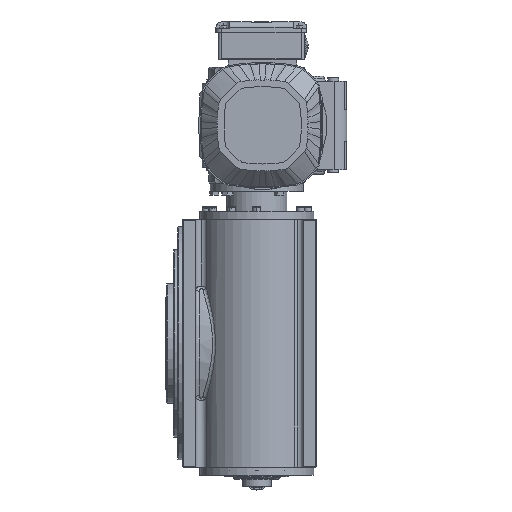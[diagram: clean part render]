
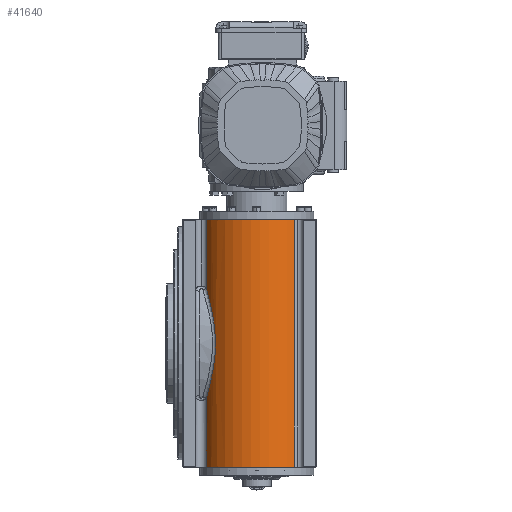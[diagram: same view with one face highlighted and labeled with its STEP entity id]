
A CAD part, left-side view. The second image highlights one B-rep face of the part: STEP entity #41640.
In plain terms, the highlighted cylindrical face has radius 71 mm (diameter 142 mm), a partial arc.
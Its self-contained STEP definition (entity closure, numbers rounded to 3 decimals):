
#196 = CARTESIAN_POINT ( 'NONE',  ( -141.327, 127.831, 29.758 ) ) ;
#270 = ORIENTED_EDGE ( 'NONE', *, *, #23834, .T. ) ;
#868 = ORIENTED_EDGE ( 'NONE', *, *, #51740, .F. ) ;
#2362 = CARTESIAN_POINT ( 'NONE',  ( -141.192, 127.924, -30.015 ) ) ;
#2782 = CARTESIAN_POINT ( 'NONE',  ( -143.713, 125.653, 10.36 ) ) ;
#3444 = VERTEX_POINT ( 'NONE', #14603 ) ;
#4498 = CIRCLE ( 'NONE', #80134, 71. ) ;
#7082 = CARTESIAN_POINT ( 'NONE',  ( -128.109, 136.808, 68.859 ) ) ;
#7103 = CARTESIAN_POINT ( 'NONE',  ( -95., 74., 154. ) ) ;
#7285 = CARTESIAN_POINT ( 'NONE',  ( -142.345, 126.918, 23.884 ) ) ;
#8637 = CARTESIAN_POINT ( 'NONE',  ( -142.826, 126.476, -19.641 ) ) ;
#8804 = CIRCLE ( 'NONE', #70164, 71. ) ;
#8835 = CARTESIAN_POINT ( 'NONE',  ( -148.721, 27.577, 154. ) ) ;
#9061 = CARTESIAN_POINT ( 'NONE',  ( -143.351, 125.993, 14.878 ) ) ;
#9504 = CARTESIAN_POINT ( 'NONE',  ( -143.2, 126.132, 16.387 ) ) ;
#11302 = LINE ( 'NONE', #79717, #85713 ) ;
#13398 = DIRECTION ( 'NONE',  ( 0., 0., 1. ) ) ;
#13591 = B_SPLINE_CURVE_WITH_KNOTS ( 'NONE', 3,
 ( #81099, #13983, #41342, #60546, #34600, #47142, #68495, #40455, #61446, #196, #7285, #9504, #9061, #36814, #2782, #56075, #22931, #83314, #76608, #8637, #41756, #50273, #49841, #2362, #63191, #48966, #64061, #42652, #63619, #69818 ),
 .UNSPECIFIED., .F., .F.,
 ( 4, 2, 2, 2, 2, 2, 2, 2, 2, 2, 2, 2, 2, 2, 4 ),
 ( 0., 0.018, 0.023, 0.027, 0.036, 0.055, 0.059, 0.064, 0.073, 0.091, 0.095, 0.1, 0.109, 0.127, 0.145 ),
 .UNSPECIFIED. ) ;
#13983 = CARTESIAN_POINT ( 'NONE',  ( -130.725, 135.429, 63.555 ) ) ;
#14603 = CARTESIAN_POINT ( 'NONE',  ( -148.721, 27.577, -154. ) ) ;
#15972 = EDGE_CURVE ( 'NONE', #67952, #27628, #75093, .T. ) ;
#16411 = CARTESIAN_POINT ( 'NONE',  ( -128.109, 136.808, -68.859 ) ) ;
#17279 = AXIS2_PLACEMENT_3D ( 'NONE', #71453, #51479, #30359 ) ;
#18074 = ORIENTED_EDGE ( 'NONE', *, *, #83754, .T. ) ;
#22069 = ORIENTED_EDGE ( 'NONE', *, *, #15972, .F. ) ;
#22931 = CARTESIAN_POINT ( 'NONE',  ( -144.049, 125.334, 2.839 ) ) ;
#23473 = VERTEX_POINT ( 'NONE', #16411 ) ;
#23834 = EDGE_CURVE ( 'NONE', #86995, #3444, #8804, .T. ) ;
#27235 = DIRECTION ( 'NONE',  ( 0., 0., 1. ) ) ;
#27628 = VERTEX_POINT ( 'NONE', #61720 ) ;
#30359 = DIRECTION ( 'NONE',  ( 1., 0., 0. ) ) ;
#33222 = VECTOR ( 'NONE', #54569, 1000. ) ;
#34600 = CARTESIAN_POINT ( 'NONE',  ( -135.977, 131.984, 49.755 ) ) ;
#35631 = ORIENTED_EDGE ( 'NONE', *, *, #45904, .T. ) ;
#36814 = CARTESIAN_POINT ( 'NONE',  ( -143.607, 125.753, 11.865 ) ) ;
#40243 = CARTESIAN_POINT ( 'NONE',  ( -128.109, 136.808, -154. ) ) ;
#40455 = CARTESIAN_POINT ( 'NONE',  ( -138.57, 130.069, 41.275 ) ) ;
#41163 = CARTESIAN_POINT ( 'NONE',  ( -128.109, 136.808, -500000. ) ) ;
#41342 = CARTESIAN_POINT ( 'NONE',  ( -133.018, 134.012, 58.125 ) ) ;
#41396 = VECTOR ( 'NONE', #59485, 1000. ) ;
#41613 = CARTESIAN_POINT ( 'NONE',  ( -95., 74., -154. ) ) ;
#41640 = ADVANCED_FACE ( 'NONE', ( #78263 ), #64395, .T. ) ;
#41699 = ORIENTED_EDGE ( 'NONE', *, *, #55638, .T. ) ;
#41756 = CARTESIAN_POINT ( 'NONE',  ( -142.631, 126.653, -21.138 ) ) ;
#42652 = CARTESIAN_POINT ( 'NONE',  ( -132.999, 134.023, -58.167 ) ) ;
#45904 = EDGE_CURVE ( 'NONE', #23473, #86995, #11302, .T. ) ;
#47142 = CARTESIAN_POINT ( 'NONE',  ( -136.889, 131.329, 46.942 ) ) ;
#47410 = DIRECTION ( 'NONE',  ( 1., 0., 0. ) ) ;
#48350 = DIRECTION ( 'NONE',  ( 1., 0., 0. ) ) ;
#48966 = CARTESIAN_POINT ( 'NONE',  ( -138.584, 130.076, -41.542 ) ) ;
#49841 = CARTESIAN_POINT ( 'NONE',  ( -141.962, 127.251, -25.6 ) ) ;
#50273 = CARTESIAN_POINT ( 'NONE',  ( -142.199, 127.041, -24.119 ) ) ;
#50996 = VERTEX_POINT ( 'NONE', #8835 ) ;
#51479 = DIRECTION ( 'NONE',  ( 0., 0., 1. ) ) ;
#51740 = EDGE_CURVE ( 'NONE', #27628, #50996, #4498, .T. ) ;
#54569 = DIRECTION ( 'NONE',  ( 0., 0., 1. ) ) ;
#55638 = EDGE_CURVE ( 'NONE', #67952, #23473, #13591, .T. ) ;
#56075 = CARTESIAN_POINT ( 'NONE',  ( -143.967, 125.413, 5.846 ) ) ;
#59485 = DIRECTION ( 'NONE',  ( 0., 0., 1. ) ) ;
#60546 = CARTESIAN_POINT ( 'NONE',  ( -135.5, 132.319, 51.157 ) ) ;
#61446 = CARTESIAN_POINT ( 'NONE',  ( -139.32, 129.475, 38.415 ) ) ;
#61720 = CARTESIAN_POINT ( 'NONE',  ( -128.109, 136.808, 154. ) ) ;
#62126 = CARTESIAN_POINT ( 'NONE',  ( -148.721, 27.577, -154. ) ) ;
#63191 = CARTESIAN_POINT ( 'NONE',  ( -140.598, 128.429, -32.922 ) ) ;
#63619 = CARTESIAN_POINT ( 'NONE',  ( -130.722, 135.43, -63.561 ) ) ;
#64061 = CARTESIAN_POINT ( 'NONE',  ( -136.93, 131.346, -47.157 ) ) ;
#64395 = CYLINDRICAL_SURFACE ( 'NONE', #17279, 71. ) ;
#67952 = VERTEX_POINT ( 'NONE', #7082 ) ;
#68495 = CARTESIAN_POINT ( 'NONE',  ( -137.325, 131.008, 45.529 ) ) ;
#69818 = CARTESIAN_POINT ( 'NONE',  ( -128.109, 136.808, -68.859 ) ) ;
#70164 = AXIS2_PLACEMENT_3D ( 'NONE', #41613, #13398, #48350 ) ;
#71453 = CARTESIAN_POINT ( 'NONE',  ( -95., 74., -154. ) ) ;
#75093 = LINE ( 'NONE', #41163, #41396 ) ;
#76608 = CARTESIAN_POINT ( 'NONE',  ( -143.692, 125.681, -12.164 ) ) ;
#78263 = FACE_OUTER_BOUND ( 'NONE', #87692, .T. ) ;
#79717 = CARTESIAN_POINT ( 'NONE',  ( -128.109, 136.808, 500000. ) ) ;
#80134 = AXIS2_PLACEMENT_3D ( 'NONE', #7103, #27235, #47410 ) ;
#81099 = CARTESIAN_POINT ( 'NONE',  ( -128.109, 136.808, 68.859 ) ) ;
#83314 = CARTESIAN_POINT ( 'NONE',  ( -144.04, 125.343, -6.17 ) ) ;
#83754 = EDGE_CURVE ( 'NONE', #3444, #50996, #87595, .T. ) ;
#85713 = VECTOR ( 'NONE', #86022, 1000. ) ;
#86022 = DIRECTION ( 'NONE',  ( 0., 0., -1. ) ) ;
#86995 = VERTEX_POINT ( 'NONE', #40243 ) ;
#87595 = LINE ( 'NONE', #62126, #33222 ) ;
#87692 = EDGE_LOOP ( 'NONE', ( #22069, #41699, #35631, #270, #18074, #868 ) ) ;
